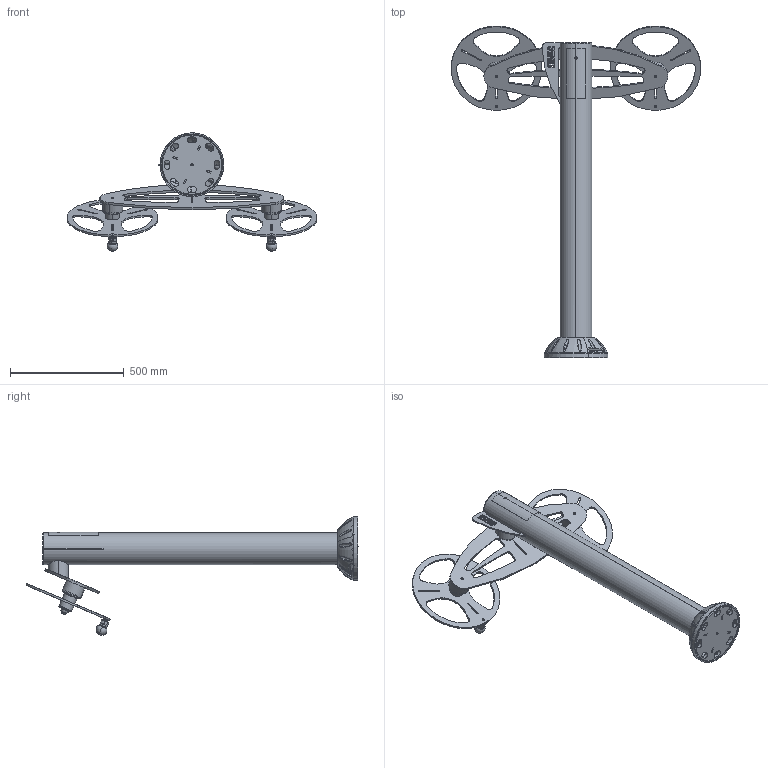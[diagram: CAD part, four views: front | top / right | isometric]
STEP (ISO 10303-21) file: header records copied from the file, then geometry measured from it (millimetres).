
FILE_DESCRIPTION (( 'STEP AP203' ), '1' );
FILE_NAME ('S0206 - VOLANTS SIMPLE V1.0.STEP', '2020-03-27T13:55:59', ( '' ), ( '' ), 'SwSTEP 2.0', 'SolidWorks 2019', '' );
FILE_SCHEMA (( 'CONFIG_CONTROL_DESIGN' ));
Length unit declared in the file: millimetre
Products named in the file (35): PALIER-S0206 - PALIER VOLANTS V1.1; SR0416 - Rondelle plate petite M10 A2 ext 22mm; TROSM-90-50 - Tube D.88,9x3 L=50 V1.0_Tube palier avant-v‚lo elliptique-sans soudure; PU-TROCB1370VS - Colonne base D.139,7x3 Ht1370 Volants Simple V1.0; Ass Joint torique Volant - Barreur V1.0; BATI-S0206 - BATI VOLANTS SIMPLE V1.0; PU-TOLGOPL - Gousset platine V2.0; SC0306B - Base pour capuchon en nylon 36mm; TOLVOLA-S0206.B - Volant D.400 V1.2; SB0129 - Joint torique 18 X 6 _d.28 f.7; SRR0816 - Roulement  6204 47-20-14; VOLANT-S0206 - VOLANT V1.1; TOLSUPVOL-S0206 - Support volants V2.2; PU-TOLROND89-20 - Rondelle pour tube D.89 percée d.20 V1.0; SB0112 - Vis Torx teton central M8x20_M8x20; S0206 - VOLANTS SIMPLE V1.0; PLATINE BASE ASS V2.0; SA1434 - Axe acier D.25 L147 V1.0; TOLLOCOL - Tole logo colonne V1.0; SPLC0900 - Plaque de consigne en Dibond 90x220x2mm; SR0427 - Rondelle plastique bouchon bague D60 d.20; SC0306C - Petit capuchon en nylon 36 mm; PU-TOLPLAT - Platine base V1.0; SF1101 - Ecrou frein M10 A2; SB0130 - Joint torique 25X6 _d.28 f.7; SC0304 - CACHE PLATINE ASS V4.0; SP0608 - Poignée plastique tournante ELESA 247011; SCH1806.A - Chapeau D135 V1.2; SBA1601 - Bague 6204 L60 V1.0; SF1113 - Ecrou M10 A2_default; TROSM90-120-23° - Tube D.88,9x3 L=120 coupe à 23° V1.0; SC0304 - Demi cache platine D140 V4.0
Assembly tree (63 placements, depth 4):
  S0206 - VOLANTS SIMPLE V1.0
    BATI-S0206 - BATI VOLANTS SIMPLE V1.0
      PLATINE BASE ASS V2.0
        PU-TOLPLAT - Platine base V1.0
        PU-TOLGOPL - Gousset platine V2.0  x4
      PU-TROCB1370VS - Colonne base D.139,7x3 Ht1370 Volants Simple V1.0
      SCH1806.A - Chapeau D135 V1.2
      TOLLOCOL - Tole logo colonne V1.0
      PALIER-S0206 - PALIER VOLANTS V1.1
        TROSM-90-50 - Tube D.88,9x3 L=50 V1.0_Tube palier avant-v‚lo elliptique-sans soudure
        SA1434 - Axe acier D.25 L147 V1.0
        PU-TOLROND89-20 - Rondelle pour tube D.89 percée d.20 V1.0
      PALIER-S0206 - PALIER VOLANTS V1.1
        TROSM-90-50 - Tube D.88,9x3 L=50 V1.0_Tube palier avant-v‚lo elliptique-sans soudure
        SA1434 - Axe acier D.25 L147 V1.0
        PU-TOLROND89-20 - Rondelle pour tube D.89 percée d.20 V1.0
      TROSM90-120-23° - Tube D.88,9x3 L=120 coupe à 23° V1.0
      TOLSUPVOL-S0206 - Support volants V2.2
    SC0304 - CACHE PLATINE ASS V4.0
      SC0304 - Demi cache platine D140 V4.0
      SB0112 - Vis Torx teton central M8x20_M8x20  x2
    VOLANT-S0206 - VOLANT V1.1
      TOLVOLA-S0206.B - Volant D.400 V1.2
      SBA1601 - Bague 6204 L60 V1.0
    SR0427 - Rondelle plastique bouchon bague D60 d.20  x4
    SRR0816 - Roulement  6204 47-20-14  x4
    SC0306B - Base pour capuchon en nylon 36mm  x2
    SR0416 - Rondelle plate petite M10 A2 ext 22mm  x2
    SF1101 - Ecrou frein M10 A2  x2
    SC0306C - Petit capuchon en nylon 36 mm  x2
    VOLANT-S0206 - VOLANT V1.1
      TOLVOLA-S0206.B - Volant D.400 V1.2
      SBA1601 - Bague 6204 L60 V1.0
    SP0608 - Poignée plastique tournante ELESA 247011  x2
    SF1113 - Ecrou M10 A2_default  x2
    SPLC0900 - Plaque de consigne en Dibond 90x220x2mm
    Ass Joint torique Volant - Barreur V1.0
      SB0130 - Joint torique 25X6 _d.28 f.7  x2
      SB0129 - Joint torique 18 X 6 _d.28 f.7  x3
    Ass Joint torique Volant - Barreur V1.0
      SB0130 - Joint torique 25X6 _d.28 f.7  x2
      SB0129 - Joint torique 18 X 6 _d.28 f.7  x3
Bounding box: 1100 x 1461.34 x 520.88 mm (x, y, z)
Volume: 6192859 mm3; surface area: 2555007.1 mm2
Topology: 71 solids, 71 shells, 1856 faces, 4536 edges, 2878 vertices
Faces by surface type: cylinder 545, plane 407, bspline 334, cone 266, torus 224, sphere 80
Entity records: 127607 total; most frequent: CARTESIAN_POINT 98543, ORIENTED_EDGE 5460, DIRECTION 4639, EDGE_CURVE 2730, AXIS2_PLACEMENT_3D 1899, VERTEX_POINT 1744, EDGE_LOOP 1278, ADVANCED_FACE 1098
